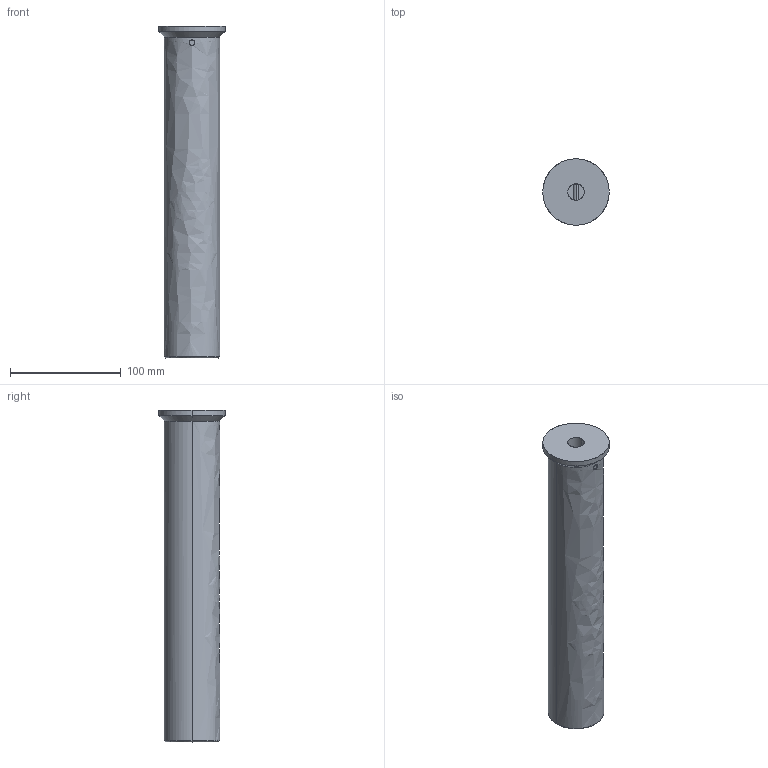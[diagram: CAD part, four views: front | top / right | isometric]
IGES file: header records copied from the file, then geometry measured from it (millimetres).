
Global section: file name: E:\UnigraphicsGraphicData\MISUMI_PRESS-PARTS\IGES\3d_lcup50-300_01353_r00.igs; native system: NX V5.0; preprocessor: UGS NX IGES V5.0; author: MISUMI; date: 20110105.161157; units: millimetre
Bounding box: 60 x 60 x 300 mm (x, y, z)
Surface area: 54593.5 mm2 (no closed solid volume)
Topology: 0 solids, 0 shells, 19 faces, 146 edges, 146 vertices
Faces by surface type: bspline 19
